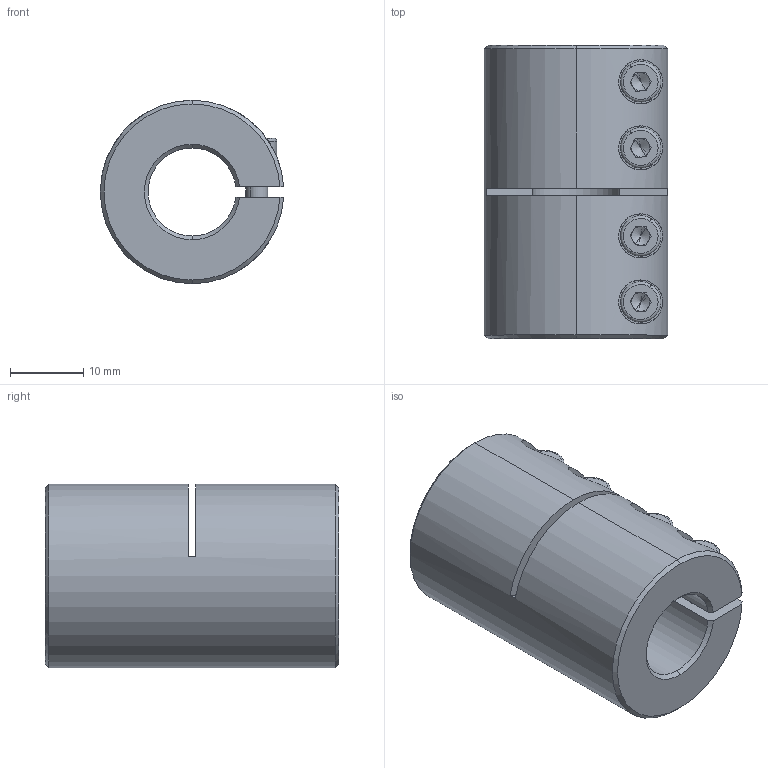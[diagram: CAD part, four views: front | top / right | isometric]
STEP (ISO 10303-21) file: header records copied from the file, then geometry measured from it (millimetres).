
FILE_DESCRIPTION (( 'STEP AP214' ), '1' );
FILE_NAME ('LL-B-D25L40-12-12½¨Ä£.STEP', '2022-07-21T05:21:48', ( '' ), ( '' ), 'SwSTEP 2.0', 'SolidWorks 2022', '' );
FILE_SCHEMA (( 'AUTOMOTIVE_DESIGN' ));
Length unit declared in the file: millimetre
Products named in the file (1): LL-B-D25L40-12-12膘耀
Bounding box: 24.98 x 40 x 25 mm (x, y, z)
Volume: 14188 mm3; surface area: 7100.4 mm2
Topology: 1 solids, 1 shells, 173 faces, 439 edges, 276 vertices
Faces by surface type: plane 83, cylinder 62, cone 20, torus 8
Entity records: 5661 total; most frequent: CARTESIAN_POINT 1411, DIRECTION 913, ORIENTED_EDGE 862, EDGE_CURVE 431, AXIS2_PLACEMENT_3D 354, VERTEX_POINT 276, VECTOR 205, LINE 205
